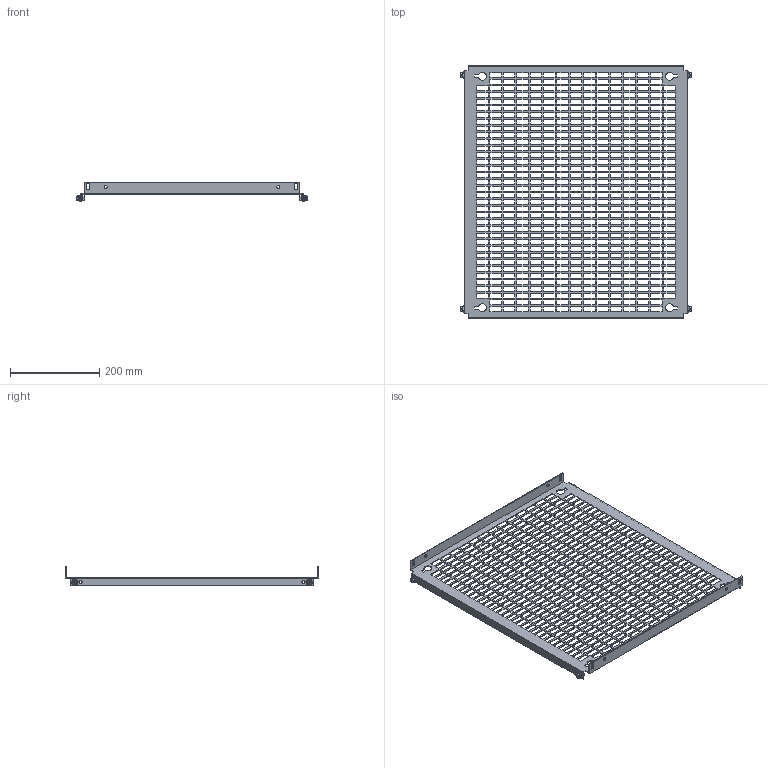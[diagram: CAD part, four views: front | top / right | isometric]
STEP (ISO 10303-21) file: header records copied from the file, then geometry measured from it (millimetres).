
FILE_DESCRIPTION(('Open CASCADE Model'),'2;1');
FILE_NAME('Open CASCADE Shape Model','2025-02-19T16:49:32',('Author'),( 'Open CASCADE'),'Open CASCADE STEP processor 7.8','Open CASCADE 7.8' ,'Unknown');
FILE_SCHEMA(('AUTOMOTIVE_DESIGN { 1 0 10303 214 1 1 1 1 }'));
Length unit declared in the file: millimetre
Products named in the file (4): Compound1; Solid1; Solid2; Solid3
Assembly tree (9 placements, depth 2):
  Compound1
    Solid1
    Solid2  x4
    Solid3  x4
Bounding box: 520 x 569 x 43 mm (x, y, z)
Volume: 349150.2 mm3; surface area: 433129.8 mm2
Topology: 9 solids, 9 shells, 2418 faces, 7082 edges, 4686 vertices
Faces by surface type: plane 2262, cone 68, bspline 48, cylinder 28, torus 12
Full cylindrical faces by diameter (mm): 5 x4, 6 x8, 7 x12
Entity records: 77056 total; most frequent: CARTESIAN_POINT 14095, ORIENTED_EDGE 13486, DIRECTION 11248, EDGE_CURVE 6743, LINE 6592, VECTOR 6592, VERTEX_POINT 4488, FACE_BOUND 3369
